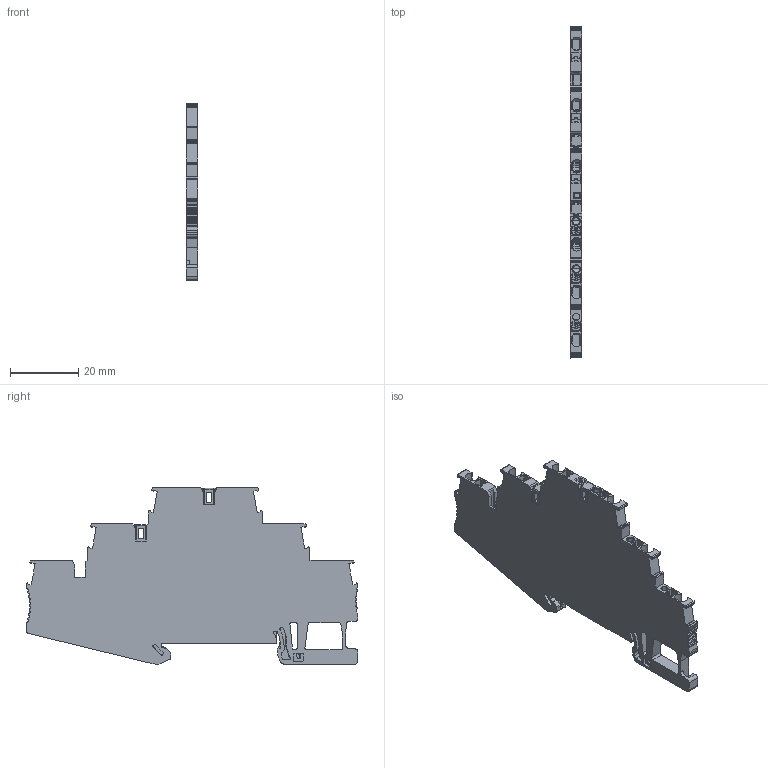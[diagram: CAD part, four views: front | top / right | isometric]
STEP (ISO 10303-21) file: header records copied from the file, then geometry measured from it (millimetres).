
FILE_DESCRIPTION((''),'2;1');
FILE_NAME('UPT-1_5-3PE','2024-03-29T16:17:05',('Administrator'),(''),'CREO PARAMETRIC BY PTC INC, 2018050','CREO PARAMETRIC BY PTC INC, 2018050','');
FILE_SCHEMA(('CONFIG_CONTROL_DESIGN'));
Products named in the file (1): UPT-1_5-3PE
Bounding box: 3.5 x 97.25 x 51.7 mm (x, y, z)
Volume: 10854.1 mm3; surface area: 10146 mm2
Topology: 2 solids, 4 shells, 1672 faces, 4628 edges, 2920 vertices
Faces by surface type: plane 863, cylinder 600, cone 77, sphere 58, extrusion 32, torus 29, bspline 13
Entity records: 56449 total; most frequent: CARTESIAN_POINT 13863, ORIENTED_EDGE 9162, DIRECTION 8676, EDGE_CURVE 4581, VECTOR 2972, LINE 2940, VERTEX_POINT 2920, AXIS2_PLACEMENT_3D 2852
